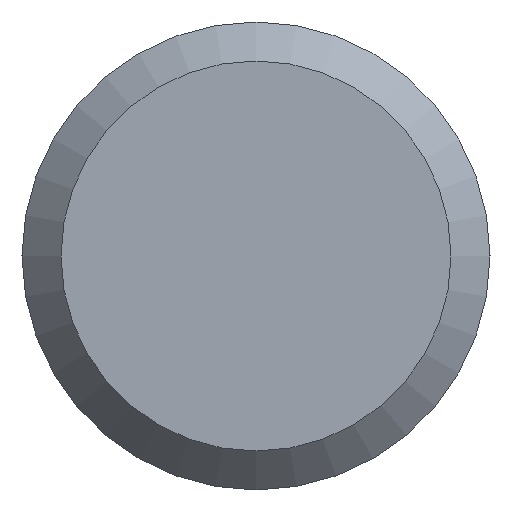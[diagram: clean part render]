
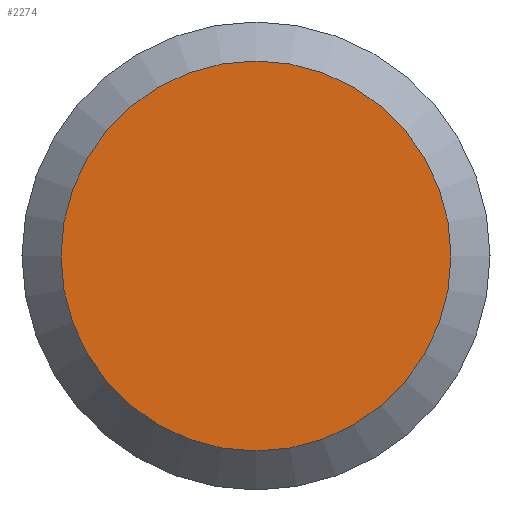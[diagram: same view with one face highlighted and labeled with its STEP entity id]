
A CAD part, left-side view. The second image highlights one B-rep face of the part: STEP entity #2274.
In plain terms, the highlighted planar face has unit normal (-1, 0, 0).
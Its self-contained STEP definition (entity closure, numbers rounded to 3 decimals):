
#850=PLANE('',#2095);
#860=ORIENTED_EDGE('',*,*,#1160,.F.);
#1008=CIRCLE('',#2094,2.5);
#1084=VERTEX_POINT('',#1863);
#1160=EDGE_CURVE('',#1084,#1084,#1008,.T.);
#1240=EDGE_LOOP('',(#860));
#1392=FACE_BOUND('',#1240,.T.);
#1551=DIRECTION('',(1.,0.,0.));
#1552=DIRECTION('',(0.,-2.5,0.));
#1553=DIRECTION('',(-1.,0.,0.));
#1554=DIRECTION('',(0.,1.,0.));
#1863=CARTESIAN_POINT('',(61.72,155.937,0.));
#1864=CARTESIAN_POINT('',(61.72,158.437,0.));
#1865=CARTESIAN_POINT('',(61.72,158.437,0.));
#2094=AXIS2_PLACEMENT_3D('',#1864,#1551,#1552);
#2095=AXIS2_PLACEMENT_3D('',#1865,#1553,#1554);
#2274=ADVANCED_FACE('',(#1392),#850,.T.);
